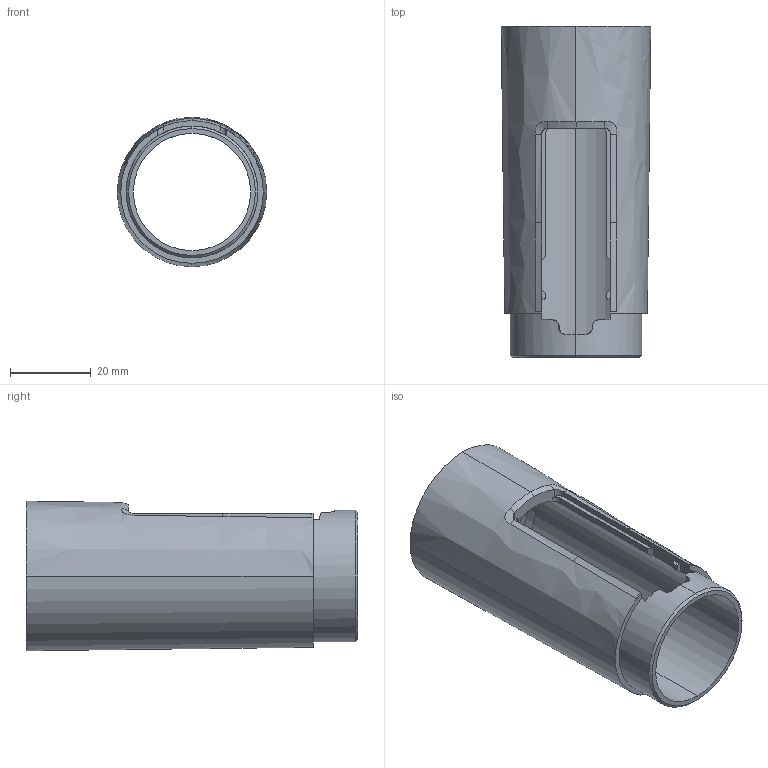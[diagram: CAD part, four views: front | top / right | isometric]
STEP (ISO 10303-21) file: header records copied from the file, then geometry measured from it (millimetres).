
FILE_DESCRIPTION (( 'STEP AP214' ), '1' );
FILE_NAME ('ÎDÌ.028.01.00.002 Ðó÷êà ìèêðîôîíà.STEP', '2025-03-18T07:20:42', ( '' ), ( '' ), 'SwSTEP 2.0', 'SolidWorks 2024', '' );
FILE_SCHEMA (( 'AUTOMOTIVE_DESIGN' ));
Length unit declared in the file: millimetre
Products named in the file (1): ОDМ.028.01.00.002 Ручка микрофона
Bounding box: 37 x 82 x 37 mm (x, y, z)
Volume: 23493.5 mm3; surface area: 16259.1 mm2
Topology: 1 solids, 1 shells, 75 faces, 211 edges, 139 vertices
Faces by surface type: plane 33, cylinder 22, bspline 16, cone 4
Entity records: 4389 total; most frequent: CARTESIAN_POINT 2525, ORIENTED_EDGE 422, DIRECTION 334, EDGE_CURVE 211, VERTEX_POINT 139, AXIS2_PLACEMENT_3D 116, VECTOR 102, LINE 102
